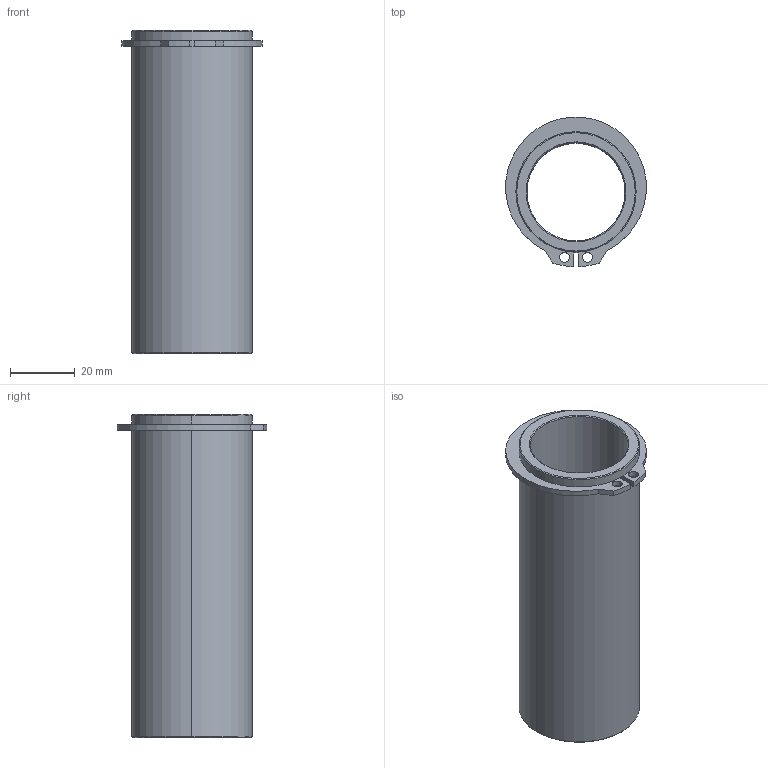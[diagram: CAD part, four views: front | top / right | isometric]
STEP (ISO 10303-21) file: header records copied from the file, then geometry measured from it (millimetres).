
FILE_DESCRIPTION((''),'2;1');
FILE_NAME('C13_030_100.stp','2008-12-17T15:07:49',(''),(''),'Mechanical Desktop 2009','Mechanical Desktop 2009',', , ');
FILE_SCHEMA(('CONFIG_CONTROL_DESIGN'));
Length unit declared in the file: millimetre
Products named in the file (2): Product; blmdl1
Assembly tree (1 placements, depth 2):
  Product
    blmdl1
Bounding box: 43.48 x 46.28 x 100 mm (x, y, z)
Volume: 37356.8 mm3; surface area: 23550.1 mm2
Topology: 2 solids, 2 shells, 34 faces, 76 edges, 48 vertices
Faces by surface type: cylinder 16, plane 10, cone 8
Entity records: 1075 total; most frequent: DIRECTION 188, CARTESIAN_POINT 160, ORIENTED_EDGE 152, AXIS2_PLACEMENT_3D 76, EDGE_CURVE 76, VERTEX_POINT 48, EDGE_LOOP 42, CIRCLE 40
